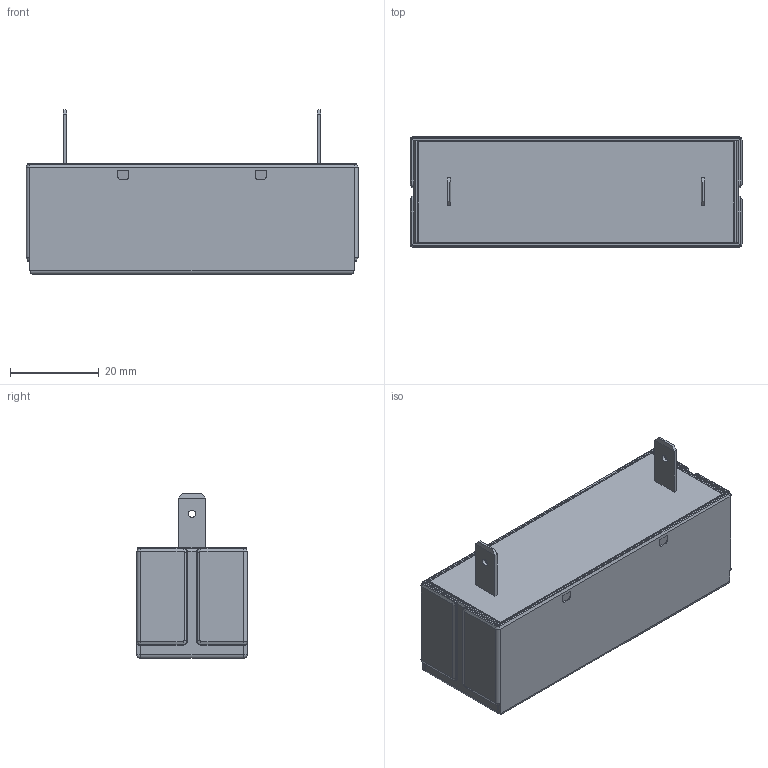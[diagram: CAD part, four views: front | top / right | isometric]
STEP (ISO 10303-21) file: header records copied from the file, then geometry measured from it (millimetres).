
FILE_DESCRIPTION(/* description */ (''),/* implementation_level */ '2;1');
FILE_NAME(/* name */ '70W.step',/* time_stamp */ '2025-12-15T14:34:53+09:00',/* author */ (''),/* organization */ (''),/* preprocessor_version */ 'ST-DEVELOPER v20.1',/* originating_system */ 'Autodesk Translation Framework v14.21.0.0',/* authorisation */ '');
FILE_SCHEMA (('AUTOMOTIVE_DESIGN { 1 0 10303 214 3 1 1 }'));
Length unit declared in the file: millimetre
Products named in the file (1): (未保存)
Bounding box: 75 x 25 x 37.2 mm (x, y, z)
Volume: 46423.4 mm3; surface area: 10994.1 mm2
Topology: 1 solids, 1 shells, 187 faces, 442 edges, 264 vertices
Faces by surface type: plane 101, cylinder 54, torus 16, cone 16
Full cylindrical faces by diameter (mm): 1.65 x2
Entity records: 5417 total; most frequent: DIRECTION 950, CARTESIAN_POINT 944, ORIENTED_EDGE 884, EDGE_CURVE 442, AXIS2_PLACEMENT_3D 324, LINE 302, VECTOR 302, VERTEX_POINT 264
